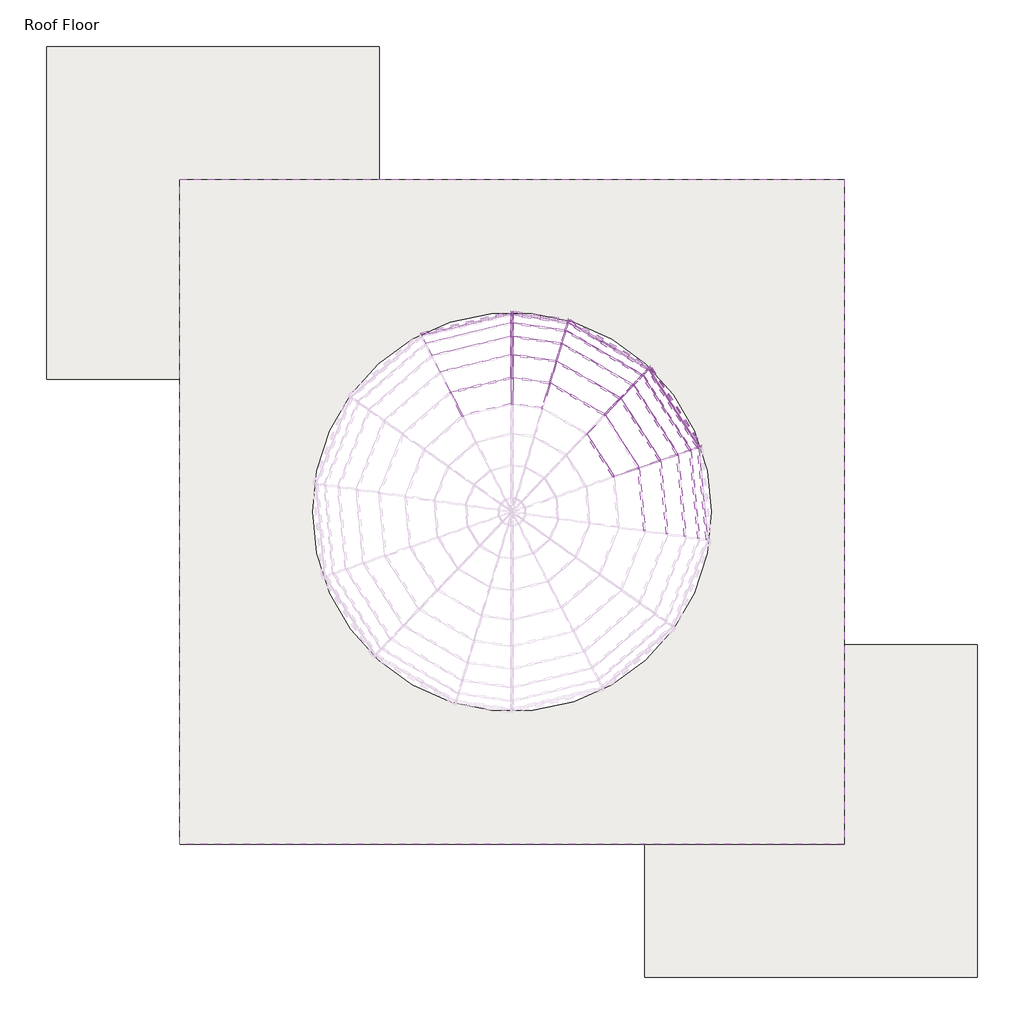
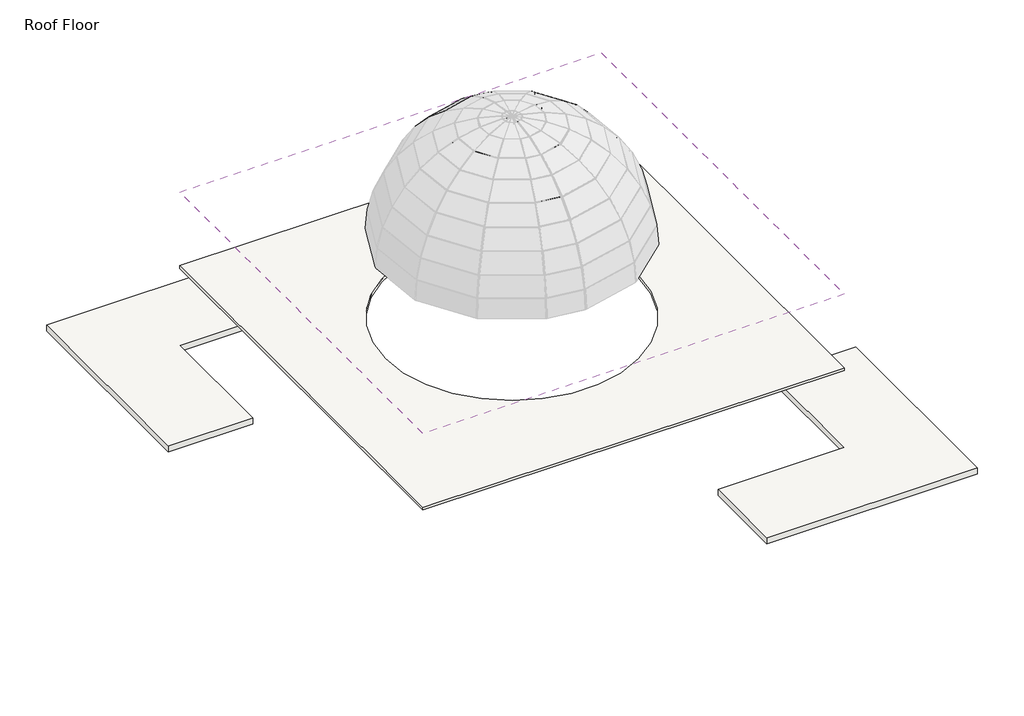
# One storey, part 5 of 5: 54 members, 23 plates, 2 roofs, 2 slabs.
"""IFC4 building model written with IfcOpenShell, lengths in millimetres."""

from ifc_helpers import new_model, si_unit, point, frame, frame_2d, origin, place, context, project, spatial, polyline, circle_curve, trimmed, segment, composite_curve, outline, extrude, transform, mapped, element, save
from components import member_a4b9d852, member_4cbb40d8, member_e5884c93, member_19e455aa, member_1644e863, member_7f7bd10d, member_ecfbb555, member_1f5db4fb, member_3542fcca, member_8c0c7285, member_e03b8e9c, member_dc775c2f, member_acb6b9ec, member_e077157f, member_c4213f63, member_6952dcc5, member_c3dcfc8e, member_16816f3b, member_335e9b28, member_95e271e4, member_56577a18, member_8ccf5568, member_51c93bb0, member_3c5b05b3, member_fd7ad58a, member_76afc974, member_c7f1f8f4, member_0ec1a058, system_panel_glazed_95229d4f, system_panel_glazed_dfb81899, system_panel_glazed_b60c8f88, system_panel_glazed_a08cf5d3, system_panel_glazed_10998a2e, system_panel_glazed_e9365c18, system_panel_glazed_9944c64d, system_panel_glazed_044c179b, system_panel_glazed_231bbcbc, system_panel_glazed_73e16893, system_panel_glazed_0d06b648, system_panel_glazed_5fe24ba9, system_panel_glazed_dbff668c, system_panel_glazed_0487fba4, system_panel_glazed_b552b528, system_panel_glazed_ecd34a34, system_panel_glazed_bd6fc11e, system_panel_glazed_7ee87b59

model = new_model("IFC4")

# Units and contexts
model_context = context("Model", 3, world=origin())
ifc_project = project(units=[si_unit("LENGTHUNIT", "METRE", prefix="MILLI")], contexts=[model_context])

# Site, building, storey
site = spatial("IfcSite", under=ifc_project)
building = spatial("IfcBuilding", under=site)
storey = spatial("IfcBuildingStorey", under=building, Name="Roof Floor", Elevation=15240.0)

# Members
placement = place(None, origin())
member_shape = member_a4b9d852(model_context)
element("IfcMember", 1, ObjectType="Rectangular Mullion : 1\" Square", at=placement, inside=storey, context=model_context, shape_type="MappedRepresentation", body=[
    mapped(member_shape, transform((-3865.6555486, 2046.7790077, 21675.0614442), x_axis=(0.17684502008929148, -0.7291506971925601, 0.6611089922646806), y_axis=(-0.1558248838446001, 0.6424824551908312, 0.7502898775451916), z_axis=(-0.9718253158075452, -0.23570226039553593, 0.0))),
])
member_2_shape = member_4cbb40d8(model_context)
element("IfcMember", 2, ObjectType="Rectangular Mullion : 1\" Square", at=placement, inside=storey, context=model_context, shape_type="MappedRepresentation", body=[
    mapped(member_2_shape, transform((-2445.9654175, 2901.277492, 21117.9670279), x_axis=(-0.08886370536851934, -0.6165291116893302, 0.7823011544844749), y_axis=(0.11160400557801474, 0.774299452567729, 0.6229003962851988), z_axis=(-0.9897715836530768, 0.14266117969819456, 0.0))),
])
member_3_shape = member_e5884c93(model_context)
element("IfcMember", 3, ObjectType="Rectangular Mullion : 1\" Square", at=placement, inside=storey, context=model_context, shape_type="MappedRepresentation", body=[
    mapped(member_3_shape, transform((924.03532, 474.2517773, 21117.9670279), x_axis=(-0.6270371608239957, -0.05961648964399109, 0.7767047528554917), y_axis=(0.7732178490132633, 0.0735148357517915, 0.6298648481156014), z_axis=(-0.09464965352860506, 0.9955106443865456, 0.0))),
])
element("IfcMember", 4, ObjectType="Rectangular Mullion : 1\" Square", at=placement, inside=storey, context=model_context, shape_type="MappedRepresentation", body=[
    mapped(member_3_shape, transform((15.2659687, 1900.7280925, 21117.9670279), x_axis=(-0.5300546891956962, -0.34025248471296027, 0.7767047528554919), y_axis=(0.6536259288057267, 0.41957528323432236, 0.6298648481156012), z_axis=(-0.5401991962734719, 0.8415371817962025, 0.0))),
])
element("IfcMember", 5, ObjectType="Rectangular Mullion : 1\" Square", at=placement, inside=storey, context=model_context, shape_type="MappedRepresentation", body=[
    mapped(member_3_shape, transform((-1446.0304014, 2752.3790366, 21117.9670279), x_axis=(-0.3152822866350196, -0.5452768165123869, 0.7767047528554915), y_axis=(0.38878380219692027, 0.6723967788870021, 0.6298648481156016), z_axis=(-0.8657044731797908, 0.5005554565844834, 0.0))),
])
member_4_shape = member_19e455aa(model_context)
element("IfcMember", 6, ObjectType="Rectangular Mullion : 1\" Square", at=placement, inside=storey, context=model_context, shape_type="MappedRepresentation", body=[
    mapped(member_4_shape, transform((-2445.9654175, 3321.4246649, 20482.2624164), x_axis=(-0.0690107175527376, -0.47879070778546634, 0.8752125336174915), y_axis=(0.1248588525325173, 0.8662604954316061, 0.48373858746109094), z_axis=(-0.9897715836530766, 0.14266117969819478, 0.0))),
])
member_5_shape = member_1644e863(model_context)
element("IfcMember", 7, ObjectType="Rectangular Mullion : 1\" Square", at=placement, inside=storey, context=model_context, shape_type="MappedRepresentation", body=[
    mapped(member_5_shape, transform((1321.1388108, 611.4832041, 20482.2624164), x_axis=(-0.4883347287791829, -0.04642914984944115, 0.8714204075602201), y_axis=(0.867508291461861, 0.08247963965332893, 0.4905369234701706), z_axis=(-0.09464965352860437, 0.9955106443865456, 0.0))),
])
element("IfcMember", 8, ObjectType="Rectangular Mullion : 1\" Square", at=placement, inside=storey, context=model_context, shape_type="MappedRepresentation", body=[
    mapped(member_5_shape, transform((305.3779974, 2204.6337649, 20482.2624164), x_axis=(-0.41280506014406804, -0.2649876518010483, 0.8714204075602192), y_axis=(0.7333326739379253, 0.47074060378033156, 0.4905369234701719), z_axis=(-0.5401991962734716, 0.8415371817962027, 0.0))),
])
element("IfcMember", 9, ObjectType="Rectangular Mullion : 1\" Square", at=placement, inside=storey, context=model_context, shape_type="MappedRepresentation", body=[
    mapped(member_5_shape, transform((-1327.3791745, 3155.4243607, 20482.2624164), x_axis=(-0.2455409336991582, -0.42466000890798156, 0.8714204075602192), y_axis=(0.43619423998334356, 0.7543925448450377, 0.49053692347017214), z_axis=(-0.8657044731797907, 0.5005554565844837, 0.0))),
])
member_6_shape = member_7f7bd10d(model_context)
element("IfcMember", 10, ObjectType="Rectangular Mullion : 1\" Square", at=placement, inside=storey, context=model_context, shape_type="MappedRepresentation", body=[
    mapped(member_6_shape, transform((-3877.9977301, 2043.785589, 21675.0614442), x_axis=(-0.8888888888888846, -0.4581228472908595, 0.0), y_axis=(-0.27836636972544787, 0.5401100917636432, 0.794224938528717), z_axis=(-0.3638525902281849, 0.7059777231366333, -0.6076238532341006))),
])
element("IfcMember", 11, ObjectType="Rectangular Mullion : 1\" Square", at=placement, inside=storey, context=model_context, shape_type="MappedRepresentation", body=[
    mapped(member_6_shape, transform((1790.1180783, 786.6119258, 19047.3495572), x_axis=(-0.32662703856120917, 0.9451533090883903, 0.0), y_axis=(0.915702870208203, 0.3164495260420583, 0.24768518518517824), z_axis=(0.2341004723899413, 0.08090067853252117, -0.9688405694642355))),
])
element("IfcMember", 12, ObjectType="Rectangular Mullion : 1\" Square", at=placement, inside=storey, context=model_context, shape_type="MappedRepresentation", body=[
    mapped(member_6_shape, transform((1611.7335184, 724.9656087, 19785.6060711), x_axis=(-0.32662703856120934, 0.9451533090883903, 0.0), y_axis=(0.8641037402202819, 0.2986178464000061, 0.40515689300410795), z_axis=(0.382935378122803, 0.13233519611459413, -0.9142471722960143))),
])
element("IfcMember", 13, ObjectType="Rectangular Mullion : 1\" Square", at=placement, inside=storey, context=model_context, shape_type="MappedRepresentation", body=[
    mapped(member_6_shape, transform((1319.9367602, 624.1261893, 20482.2624164), x_axis=(-0.3266270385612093, 0.9451533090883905, 0.0), y_axis=(0.7885017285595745, 0.27249122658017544, 0.5513742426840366), z_axis=(0.5211331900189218, 0.1800937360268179, -0.8342580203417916))),
])
element("IfcMember", 14, ObjectType="Rectangular Mullion : 1\" Square", at=placement, inside=storey, context=model_context, shape_type="MappedRepresentation", body=[
    mapped(member_6_shape, transform((922.8332694, 486.8947624, 21117.9670279), x_axis=(-0.3266270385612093, 0.9451533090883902, 0.0), y_axis=(0.6909968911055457, 0.23879540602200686, 0.6822756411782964), z_axis=(0.6448550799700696, 0.22284967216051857, -0.7310950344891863))),
])
element("IfcMember", 15, ObjectType="Rectangular Mullion : 1\" Square", at=placement, inside=storey, context=model_context, shape_type="MappedRepresentation", body=[
    mapped(member_6_shape, transform((431.4536985, 317.0833123, 21675.0614442), x_axis=(-0.3266270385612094, 0.9451533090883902, 0.0), y_axis=(0.574297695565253, 0.19846637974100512, 0.7942249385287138), z_axis=(0.7506643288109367, 0.25941533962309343, -0.6076238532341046))),
])
element("IfcMember", 16, ObjectType="Rectangular Mullion : 1\" Square", at=placement, inside=storey, context=model_context, shape_type="MappedRepresentation", body=[
    mapped(member_6_shape, transform((642.0179888, 2575.1538571, 19047.3495572), x_axis=(-0.7233314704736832, 0.6905009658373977, 0.0), y_axis=(0.6689853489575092, 0.7007928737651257, 0.24768518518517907), z_axis=(0.17102685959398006, 0.17915848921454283, -0.9688405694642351))),
])
element("IfcMember", 17, ObjectType="Rectangular Mullion : 1\" Square", at=placement, inside=storey, context=model_context, shape_type="MappedRepresentation", body=[
    mapped(member_6_shape, transform((511.6955218, 2438.6350883, 19785.6060711), x_axis=(-0.7233314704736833, 0.6905009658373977, 0.0), y_axis=(0.6312885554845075, 0.6613037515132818, 0.4051568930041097), z_axis=(0.2797612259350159, 0.2930627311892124, -0.9142471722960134))),
])
element("IfcMember", 18, ObjectType="Rectangular Mullion : 1\" Square", at=placement, inside=storey, context=model_context, shape_type="MappedRepresentation", body=[
    mapped(member_6_shape, transform((298.5174676, 2215.3212871, 20482.2624164), x_axis=(-0.7233314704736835, 0.6905009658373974, 0.0), y_axis=(0.5760559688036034, 0.603445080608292, 0.5513742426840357), z_axis=(0.380724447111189, 0.3988263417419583, -0.8342580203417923))),
])
element("IfcMember", 19, ObjectType="Rectangular Mullion : 1\" Square", at=placement, inside=storey, context=model_context, shape_type="MappedRepresentation", body=[
    mapped(member_6_shape, transform((8.4054389, 1911.4156147, 21117.9670279), x_axis=(-0.7233314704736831, 0.6905009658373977, 0.0), y_axis=(0.5048218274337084, 0.5288240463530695, 0.6822756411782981), z_axis=(0.4711119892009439, 0.49351144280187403, -0.7310950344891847))),
])
element("IfcMember", 20, ObjectType="Rectangular Mullion : 1\" Square", at=placement, inside=storey, context=model_context, shape_type="MappedRepresentation", body=[
    mapped(member_6_shape, transform((-1197.8873462, 3638.9980251, 19047.3495572), x_axis=(-0.959295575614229, 0.2824039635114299, 0.0), y_axis=(0.273604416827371, 0.9294044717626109, 0.24768518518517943), z_axis=(0.06994727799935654, 0.2376033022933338, -0.9688405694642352))),
])
element("IfcMember", 21, ObjectType="Rectangular Mullion : 1\" Square", at=placement, inside=storey, context=model_context, shape_type="MappedRepresentation", body=[
    mapped(member_6_shape, transform((-1251.187172, 3457.9443087, 19785.6060711), x_axis=(-0.959295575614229, 0.2824039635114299, 0.0), y_axis=(0.2581870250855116, 0.8770332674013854, 0.4051568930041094), z_axis=(0.11441791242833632, 0.3886652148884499, -0.9142471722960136))),
])
element("IfcMember", 22, ObjectType="Rectangular Mullion : 1\" Square", at=placement, inside=storey, context=model_context, shape_type="MappedRepresentation", body=[
    mapped(member_6_shape, transform((-1338.3736213, 3161.781415, 20482.2624164), x_axis=(-0.9592955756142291, 0.2824039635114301, 0.0), y_axis=(0.23559777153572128, 0.8003000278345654, 0.5513742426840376), z_axis=(0.1557102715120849, 0.5289308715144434, -0.834258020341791))),
])
element("IfcMember", 23, ObjectType="Rectangular Mullion : 1\" Square", at=placement, inside=storey, context=model_context, shape_type="MappedRepresentation", body=[
    mapped(member_6_shape, transform((-1457.0248482, 2758.7360909, 21117.9670279), x_axis=(-0.9592955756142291, 0.2824039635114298, 0.0), y_axis=(0.2064641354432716, 0.7013362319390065, 0.6822756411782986), z_axis=(0.19267734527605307, 0.6545040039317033, -0.7310950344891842))),
])
element("IfcMember", 24, ObjectType="Rectangular Mullion : 1\" Square", at=placement, inside=storey, context=model_context, shape_type="MappedRepresentation", body=[
    mapped(member_6_shape, transform((-1603.8449853, 2260.0040399, 21675.0614442), x_axis=(-0.959295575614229, 0.28240396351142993, 0.0), y_axis=(0.17159538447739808, 0.582890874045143, 0.7942249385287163), z_axis=(0.22429227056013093, 0.7618964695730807, -0.6076238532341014))),
])
member_7_shape = member_ecfbb555(model_context)
element("IfcMember", 25, ObjectType="Rectangular Mullion : 1\" Square", at=placement, inside=storey, context=model_context, shape_type="MappedRepresentation", body=[
    mapped(member_7_shape, transform((1612.935569, 712.3226236, 19785.6060711), x_axis=(-0.3344897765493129, -0.03180211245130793, 0.9418626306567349), y_axis=(0.9376342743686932, 0.08914697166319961, 0.3359981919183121), z_axis=(-0.0946496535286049, 0.9955106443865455, 0.0))),
])
element("IfcMember", 26, ObjectType="Rectangular Mullion : 1\" Square", at=placement, inside=storey, context=model_context, shape_type="MappedRepresentation", body=[
    mapped(member_7_shape, transform((518.5560516, 2427.9475661, 19785.6060711), x_axis=(-0.28275497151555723, -0.18150595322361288, 0.9418626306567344), y_axis=(0.7926124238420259, 0.5087934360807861, 0.3359981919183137), z_axis=(-0.5401991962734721, 0.8415371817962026, 0.0))),
])
element("IfcMember", 27, ObjectType="Rectangular Mullion : 1\" Square", at=placement, inside=storey, context=model_context, shape_type="MappedRepresentation", body=[
    mapped(member_7_shape, transform((-1240.1927252, 3451.5872544, 19785.6060711), x_axis=(-0.1681857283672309, -0.2908751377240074, 0.9418626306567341), y_axis=(0.47145447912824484, 0.8153746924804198, 0.33599819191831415), z_axis=(-0.8657044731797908, 0.5005554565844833, 0.0))),
])
member_8_shape = member_1f5db4fb(model_context)
element("IfcMember", 28, ObjectType="Rectangular Mullion : 1\" Square", at=placement, inside=storey, context=model_context, shape_type="MappedRepresentation", body=[
    mapped(member_8_shape, transform((-2445.9654175, 3818.8903285, 19047.3495572), x_axis=(-0.023932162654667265, -0.16603938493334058, 0.9858286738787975), y_axis=(0.1406394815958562, 0.9757452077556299, 0.16775525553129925), z_axis=(-0.9897715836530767, 0.1426611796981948, 0.0))),
])
member_9_shape = member_3542fcca(model_context)
element("IfcMember", 29, ObjectType="Rectangular Mullion : 1\" Square", at=placement, inside=storey, context=model_context, shape_type="MappedRepresentation", body=[
    mapped(member_9_shape, transform((1791.3201289, 773.9689406, 19047.3495572), x_axis=(-0.1699969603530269, -0.01616271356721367, 0.9853120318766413), y_axis=(0.9808886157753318, 0.09325944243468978, 0.1707635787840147), z_axis=(-0.09464965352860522, 0.9955106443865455, 0.0))),
])
element("IfcMember", 30, ObjectType="Rectangular Mullion : 1\" Square", at=placement, inside=storey, context=model_context, shape_type="MappedRepresentation", body=[
    mapped(member_9_shape, transform((648.8785186, 2564.4663348, 19047.3495572), x_axis=(-0.14370390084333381, -0.09224634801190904, 0.9853120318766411), y_axis=(0.8291767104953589, 0.532264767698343, 0.17076357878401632), z_axis=(-0.540199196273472, 0.8415371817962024, 0.0))),
])
element("IfcMember", 31, ObjectType="Rectangular Mullion : 1\" Square", at=placement, inside=storey, context=model_context, shape_type="MappedRepresentation", body=[
    mapped(member_9_shape, transform((-1186.8928994, 3632.6409708, 19047.3495572), x_axis=(-0.08547664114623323, -0.1478307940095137, 0.985312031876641), y_axis=(0.49320331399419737, 0.8529890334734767, 0.17076357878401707), z_axis=(-0.8657044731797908, 0.5005554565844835, 0.0))),
])
member_10_shape = member_8c0c7285(model_context)
element("IfcMember", 32, ObjectType="Rectangular Mullion : 1\" Square", at=placement, inside=storey, context=model_context, shape_type="MappedRepresentation", body=[
    mapped(member_10_shape, transform((-2445.9654175, 3630.1542173, 19785.6060711), x_axis=(-0.047160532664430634, -0.3271959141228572, 0.9437789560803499), y_axis=(0.13464061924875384, 0.9341255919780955, 0.3305771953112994), z_axis=(-0.9897715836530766, 0.14266117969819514, 0.0))),
])
member_11_shape = member_e03b8e9c(model_context)
element("IfcMember", 33, ObjectType="Rectangular Mullion : 1\" Square", at=placement, inside=storey, context=model_context, shape_type="MappedRepresentation", body=[
    mapped(member_11_shape, transform((-2471.1056157, 3822.5139224, 19047.3495572), x_axis=(0.972012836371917, 0.23411060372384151, 0.019577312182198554), y_axis=(-0.2349277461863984, 0.9686319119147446, 0.08100106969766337), z_axis=(0.0, -0.08333333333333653, 0.9965217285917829))),
])
member_12_shape = member_dc775c2f(model_context)
element("IfcMember", 34, ObjectType="Rectangular Mullion : 1\" Square", at=placement, inside=storey, context=model_context, shape_type="MappedRepresentation", body=[
    mapped(member_12_shape, transform((-2471.1056157, 3633.7778113, 19785.6060711), x_axis=(0.9734856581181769, 0.22162039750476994, 0.056657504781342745), y_axis=(-0.22874805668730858, 0.9431523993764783, 0.24111797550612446), z_axis=(0.0, -0.24768518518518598, 0.9688405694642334))),
])
member_13_shape = member_acb6b9ec(model_context)
element("IfcMember", 35, ObjectType="Rectangular Mullion : 1\" Square", at=placement, inside=storey, context=model_context, shape_type="MappedRepresentation", body=[
    mapped(member_13_shape, transform((-2471.1056157, 3325.0482588, 20482.2624164), x_axis=(0.9762871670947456, 0.19791575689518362, 0.08770815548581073), y_axis=(-0.21647948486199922, 0.8925677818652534, 0.39554947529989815), z_axis=(0.0, -0.40515689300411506, 0.914247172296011))),
])
member_14_shape = member_e077157f(model_context)
element("IfcMember", 36, ObjectType="Rectangular Mullion : 1\" Square", at=placement, inside=storey, context=model_context, shape_type="MappedRepresentation", body=[
    mapped(member_14_shape, transform((-2471.1056157, 2904.9010859, 21117.9670279), x_axis=(0.9801376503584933, 0.16544871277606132, 0.10934765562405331), y_axis=(-0.1983183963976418, 0.8176876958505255, 0.5404226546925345), z_axis=(0.0, -0.5513742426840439, 0.8342580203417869))),
])
member_15_shape = member_c4213f63(model_context)
element("IfcMember", 37, ObjectType="Rectangular Mullion : 1\" Square", at=placement, inside=storey, context=model_context, shape_type="MappedRepresentation", body=[
    mapped(member_15_shape, transform((-2471.1056157, 2385.0070473, 21675.0614442), x_axis=(0.9846406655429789, 0.12764416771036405, 0.11912063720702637), y_axis=(-0.17459312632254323, 0.7198659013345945, 0.6717963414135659), z_axis=(0.0, -0.6822756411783, 0.7310950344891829))),
])
member_16_shape = member_6952dcc5(model_context)
element("IfcMember", 38, ObjectType="Rectangular Mullion : 1\" Square", at=placement, inside=storey, context=model_context, shape_type="MappedRepresentation", body=[
    mapped(member_16_shape, transform((1843.2747837, 818.0402649, 18288.0), x_axis=(0.06816541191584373, 0.04375671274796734, -0.9967140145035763), y_axis=(0.8387719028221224, 0.538424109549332, 0.08100106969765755), z_axis=(0.5401991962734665, -0.8415371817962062, 0.0))),
])
element("IfcMember", 39, ObjectType="Rectangular Mullion : 1\" Square", at=placement, inside=storey, context=model_context, shape_type="MappedRepresentation", body=[
    mapped(member_16_shape, transform((674.8703533, 2627.4424597, 18288.0), x_axis=(0.04054552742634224, 0.07012298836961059, -0.9967140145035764), y_axis=(0.4989106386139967, 0.8628597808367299, 0.08100106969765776), z_axis=(0.8657044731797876, -0.500555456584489, 0.0))),
])
member_17_shape = member_c3dcfc8e(model_context)
element("IfcMember", 40, ObjectType="Rectangular Mullion : 1\" Square", at=placement, inside=storey, context=model_context, shape_type="MappedRepresentation", body=[
    mapped(member_17_shape, transform((-1192.5247936, 3701.7250911, 18288.0), x_axis=(0.011767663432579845, 0.08164308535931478, -0.996592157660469), y_axis=(0.14217501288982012, 0.986398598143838, 0.08248679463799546), z_axis=(0.9897715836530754, -0.14266117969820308, 0.0))),
])
member_18_shape = member_16816f3b(model_context)
element("IfcMember", 41, ObjectType="Rectangular Mullion : 1\" Square", at=placement, inside=storey, context=model_context, shape_type="MappedRepresentation", body=[
    mapped(member_18_shape, transform((-761.6121395, 1086.9125989, 22138.0708204), x_axis=(-0.7144526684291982, -0.4586211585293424, 0.5284165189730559), y_axis=(0.44468214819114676, 0.28545017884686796, 0.8489852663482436), z_axis=(-0.540199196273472, 0.8415371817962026, 0.0))),
])
member_19_shape = member_335e9b28(model_context)
element("IfcMember", 42, ObjectType="Rectangular Mullion : 1\" Square", at=placement, inside=storey, context=model_context, shape_type="MappedRepresentation", body=[
    mapped(member_19_shape, transform((-2445.9654175, 2381.3834534, 21675.0614442), x_axis=(-0.10617586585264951, -0.7366394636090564, 0.6678989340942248), y_axis=(0.0952832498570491, 0.6610673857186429, 0.744251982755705), z_axis=(-0.9897715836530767, 0.14266117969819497, 0.0))),
])
member_20_shape = member_95e271e4(model_context)
element("IfcMember", 43, ObjectType="Rectangular Mullion : 1\" Square", at=placement, inside=storey, context=model_context, shape_type="MappedRepresentation", body=[
    mapped(member_20_shape, transform((432.6557491, 304.4403271, 21675.0614442), x_axis=(-0.7469215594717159, -0.07101467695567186, 0.6611089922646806), y_axis=(0.658141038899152, 0.06257373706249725, 0.7502898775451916), z_axis=(-0.09464965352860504, 0.9955106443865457, 0.0))),
])
element("IfcMember", 44, ObjectType="Rectangular Mullion : 1\" Square", at=placement, inside=storey, context=model_context, shape_type="MappedRepresentation", body=[
    mapped(member_20_shape, transform((-1592.8505385, 2253.6469856, 21675.0614442), x_axis=(-0.3755616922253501, -0.6495293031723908, 0.6611089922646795), y_axis=(0.3309217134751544, 0.5723250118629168, 0.7502898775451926), z_axis=(-0.8657044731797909, 0.5005554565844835, 0.0))),
])
member_21_shape = member_56577a18(model_context)
element("IfcMember", 45, ObjectType="Rectangular Mullion : 1\" Square", at=placement, inside=storey, context=model_context, shape_type="MappedRepresentation", body=[
    mapped(member_21_shape, transform((-2495.7899787, 3880.027085, 18288.0), x_axis=(-0.01909213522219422, 0.07871889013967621, -0.9967140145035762), y_axis=(-0.2349277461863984, 0.968631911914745, 0.08100106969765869), z_axis=(0.971825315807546, 0.2357022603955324, 0.0))),
])
member_22_shape = member_8ccf5568(model_context)
element("IfcMember", 46, ObjectType="Rectangular Mullion : 1\" Square", at=placement, inside=storey, context=model_context, shape_type="MappedRepresentation", body=[
    mapped(member_22_shape, transform((1850.1353135, 807.3527427, 18288.0), x_axis=(-0.3266270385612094, 0.9451533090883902, 0.0), y_axis=(0.941865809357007, 0.3254909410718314, 0.08333333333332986), z_axis=(0.0787627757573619, 0.02721891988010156, -0.9965217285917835))),
])
element("IfcMember", 47, ObjectType="Rectangular Mullion : 1\" Square", at=placement, inside=storey, context=model_context, shape_type="MappedRepresentation", body=[
    mapped(member_22_shape, transform((685.8648001, 2621.0854054, 18288.0), x_axis=(-0.7233314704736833, 0.6905009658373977, 0.0), y_axis=(0.6880992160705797, 0.7208155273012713, 0.08333333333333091), z_axis=(0.05754174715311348, 0.0602776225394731, -0.9965217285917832))),
])
element("IfcMember", 48, ObjectType="Rectangular Mullion : 1\" Square", at=placement, inside=storey, context=model_context, shape_type="MappedRepresentation", body=[
    mapped(member_22_shape, transform((-1179.9546945, 3699.9132941, 18288.0), x_axis=(-0.959295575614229, 0.2824039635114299, 0.0), y_axis=(0.28142168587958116, 0.9559588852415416, 0.08333333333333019), z_axis=(0.023533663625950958, 0.07994129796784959, -0.9965217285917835))),
])
member_23_shape = member_51c93bb0(model_context)
element("IfcMember", 49, ObjectType="Rectangular Mullion : 1\" Square", at=placement, inside=storey, context=model_context, shape_type="MappedRepresentation", body=[
    mapped(member_23_shape, transform((-2471.1056157, 3886.0139224, 18288.0), x_axis=(-0.9898415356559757, 0.1416804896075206, 0.011847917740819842), y_axis=(0.14217501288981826, 0.9863985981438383, 0.08248679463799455), z_axis=(0.0, 0.08333333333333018, -0.9965217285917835))),
])
member_24_shape = member_3c5b05b3(model_context)
element("IfcMember", 50, ObjectType="Rectangular Mullion : 1\" Square", at=placement, inside=storey, context=model_context, shape_type="MappedRepresentation", body=[
    mapped(member_24_shape, transform((-2471.1056157, 3822.5139224, 19047.3495572), x_axis=(-0.9903900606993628, 0.1339928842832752, 0.034255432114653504), y_axis=(0.13830230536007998, 0.9595300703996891, 0.2453049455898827), z_axis=(0.0, 0.24768518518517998, -0.9688405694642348))),
])
member_25_shape = member_fd7ad58a(model_context)
element("IfcMember", 51, ObjectType="Rectangular Mullion : 1\" Square", at=placement, inside=storey, context=model_context, shape_type="MappedRepresentation", body=[
    mapped(member_25_shape, transform((-2471.1056157, 3633.7778113, 19785.6060711), x_axis=(-0.9914290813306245, 0.11944273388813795, 0.052932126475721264), y_axis=(0.13064599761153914, 0.9064112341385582, 0.40168432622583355), z_axis=(0.0, 0.4051568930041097, -0.9142471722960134))),
])
member_26_shape = member_76afc974(model_context)
element("IfcMember", 52, ObjectType="Rectangular Mullion : 1\" Square", at=placement, inside=storey, context=model_context, shape_type="MappedRepresentation", body=[
    mapped(member_26_shape, transform((-2471.1056157, 3325.0482588, 20482.2624164), x_axis=(-0.9928478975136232, 0.0995988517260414, 0.0658264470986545), y_axis=(0.11938614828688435, 0.8282913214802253, 0.547430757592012), z_axis=(0.0, 0.5513742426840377, -0.8342580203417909))),
])
member_27_shape = member_c7f1f8f4(model_context)
element("IfcMember", 53, ObjectType="Rectangular Mullion : 1\" Square", at=placement, inside=storey, context=model_context, shape_type="MappedRepresentation", body=[
    mapped(member_27_shape, transform((-2471.1056157, 2904.9010859, 21117.9670279), x_axis=(-0.9944936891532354, 0.07661618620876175, 0.07150008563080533), y_axis=(0.10479648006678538, 0.7270693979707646, 0.6785188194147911), z_axis=(0.0, 0.6822756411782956, -0.7310950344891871))),
])
member_28_shape = member_0ec1a058(model_context)
element("IfcMember", 54, ObjectType="Rectangular Mullion : 1\" Square", at=placement, inside=storey, context=model_context, shape_type="MappedRepresentation", body=[
    mapped(member_28_shape, transform((-2471.1056157, 2385.0070473, 21675.0614442), x_axis=(-0.9961867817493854, 0.0530128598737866, 0.06929309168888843), y_axis=(0.0872461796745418, 0.6053068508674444, 0.7911963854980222), z_axis=(0.0, 0.794224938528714, -0.6076238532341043))),
])

# Plates
system_panel_glazed_shape = system_panel_glazed_95229d4f(model_context)
element("IfcPlate", 55, ObjectType="System Panel : Glazed", at=placement, inside=storey, context=model_context, shape_type="MappedRepresentation", body=[
    mapped(system_panel_glazed_shape, transform((-3524.0617859, 3628.5174645, 18313.316536), x_axis=(-0.971825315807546, -0.23570226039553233, 0.0), y_axis=(0.2349277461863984, -0.968631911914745, -0.0810010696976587), z_axis=(0.01909213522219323, -0.07871889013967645, 0.9967140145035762))),
])
system_panel_glazed_2_shape = system_panel_glazed_dfb81899(model_context)
element("IfcPlate", 56, ObjectType="System Panel : Glazed", at=placement, inside=storey, context=model_context, shape_type="MappedRepresentation", body=[
    mapped(system_panel_glazed_2_shape, transform((1266.2686553, 1713.1076536, 18313.316536), x_axis=(-0.5401991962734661, 0.8415371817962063, 0.0), y_axis=(-0.8387719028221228, -0.5384241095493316, -0.08100106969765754), z_axis=(-0.06816541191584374, -0.0437567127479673, 0.9967140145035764))),
])
element("IfcPlate", 57, ObjectType="System Panel : Glazed", at=placement, inside=storey, context=model_context, shape_type="MappedRepresentation", body=[
    mapped(system_panel_glazed_2_shape, transform((-248.0748036, 3158.7182259, 18313.316536), x_axis=(-0.8657044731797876, 0.500555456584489, 0.0), y_axis=(-0.4989106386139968, -0.8628597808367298, -0.08100106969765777), z_axis=(-0.04054552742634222, -0.0701229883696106, 0.9967140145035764))),
])
system_panel_glazed_3_shape = system_panel_glazed_b60c8f88(model_context)
element("IfcPlate", 58, ObjectType="System Panel : Glazed", at=placement, inside=storey, context=model_context, shape_type="MappedRepresentation", body=[
    mapped(system_panel_glazed_3_shape, transform((-1819.54356, 3789.9839114, 18313.3134408), x_axis=(-0.9897715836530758, 0.14266117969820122, 0.0), y_axis=(-0.14217501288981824, -0.9863985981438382, -0.08248679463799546), z_axis=(-0.011767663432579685, -0.08164308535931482, 0.9965921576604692))),
])
system_panel_glazed_4_shape = system_panel_glazed_a08cf5d3(model_context)
element("IfcPlate", 59, ObjectType="System Panel : Glazed", at=placement, inside=storey, context=model_context, shape_type="MappedRepresentation", body=[
    mapped(system_panel_glazed_4_shape, transform((-3509.2889111, 3567.5665119, 19059.674854), x_axis=(-0.9718253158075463, -0.23570226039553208, 0.0), y_axis=(0.22874805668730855, -0.9431523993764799, -0.24111797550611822), z_axis=(0.05683205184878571, -0.2343245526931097, 0.9704958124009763))),
])
system_panel_glazed_5_shape = system_panel_glazed_10998a2e(model_context)
element("IfcPlate", 60, ObjectType="System Panel : Glazed", at=placement, inside=storey, context=model_context, shape_type="MappedRepresentation", body=[
    mapped(system_panel_glazed_5_shape, transform((1213.4910798, 1679.2286944, 19059.674854), x_axis=(-0.5401991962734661, 0.8415371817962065, 0.0), y_axis=(-0.8167083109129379, -0.5242610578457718, -0.24111797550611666), z_axis=(-0.2029097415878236, -0.13025173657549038, 0.9704958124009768))),
])
element("IfcPlate", 61, ObjectType="System Panel : Glazed", at=placement, inside=storey, context=model_context, shape_type="MappedRepresentation", body=[
    mapped(system_panel_glazed_5_shape, transform((-279.4674788, 3104.4249823, 19059.674854), x_axis=(-0.8657044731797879, 0.5005554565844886, 0.0), y_axis=(-0.4857869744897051, -0.8401625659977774, -0.24111797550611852), z_axis=(-0.12069291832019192, -0.2087369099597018, 0.9704958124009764))),
])
system_panel_glazed_6_shape = system_panel_glazed_e9365c18(model_context)
element("IfcPlate", 62, ObjectType="System Panel : Glazed", at=placement, inside=storey, context=model_context, shape_type="MappedRepresentation", body=[
    mapped(system_panel_glazed_6_shape, transform((-1828.6519468, 3726.7660017, 19059.661521), x_axis=(-0.9897715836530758, 0.14266117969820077, 0.0), y_axis=(-0.13830230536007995, -0.9595300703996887, -0.2453049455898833), z_axis=(-0.03499549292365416, -0.2427958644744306, 0.9694459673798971))),
])
system_panel_glazed_7_shape = system_panel_glazed_9944c64d(model_context)
element("IfcPlate", 63, ObjectType="System Panel : Glazed", at=placement, inside=storey, context=model_context, shape_type="MappedRepresentation", body=[
    mapped(system_panel_glazed_7_shape, transform((-3465.6122602, 3387.4054041, 19797.2703184), x_axis=(-0.9718253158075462, -0.23570226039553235, 0.0), y_axis=(0.21647948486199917, -0.8925677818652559, -0.3955494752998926), z_axis=(0.09323190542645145, -0.3844049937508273, 0.9184446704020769))),
])
system_panel_glazed_8_shape = system_panel_glazed_044c179b(model_context)
element("IfcPlate", 64, ObjectType="System Panel : Glazed", at=placement, inside=storey, context=model_context, shape_type="MappedRepresentation", body=[
    mapped(system_panel_glazed_8_shape, transform((1057.4870763, 1579.0866695, 19797.2703184), x_axis=(-0.5401991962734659, 0.8415371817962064, 0.0), y_axis=(-0.7729053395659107, -0.49614307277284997, -0.39554947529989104), z_axis=(-0.33286959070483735, -0.21367550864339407, 0.9184446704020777))),
])
element("IfcPlate", 65, ObjectType="System Panel : Glazed", at=placement, inside=storey, context=model_context, shape_type="MappedRepresentation", body=[
    mapped(system_panel_glazed_8_shape, transform((-372.2603546, 2943.9408508, 19797.2703184), x_axis=(-0.8657044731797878, 0.5005554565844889, 0.0), y_axis=(-0.45973249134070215, -0.7951016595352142, -0.39554947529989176), z_axis=(-0.19799444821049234, -0.3424289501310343, 0.9184446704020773))),
])
system_panel_glazed_9_shape = system_panel_glazed_231bbcbc(model_context)
element("IfcPlate", 66, ObjectType="System Panel : Glazed", at=placement, inside=storey, context=model_context, shape_type="MappedRepresentation", body=[
    mapped(system_panel_glazed_9_shape, transform((-1855.5785897, 3539.9044327, 19797.2364542), x_axis=(-0.9897715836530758, 0.14266117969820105, 0.0), y_axis=(-0.1306459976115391, -0.9064112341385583, -0.40168432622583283), z_axis=(-0.05730475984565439, -0.3975757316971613, 0.9157781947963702))),
])
system_panel_glazed_10_shape = system_panel_glazed_73e16893(model_context)
element("IfcPlate", 67, ObjectType="System Panel : Glazed", at=placement, inside=storey, context=model_context, shape_type="MappedRepresentation", body=[
    mapped(system_panel_glazed_10_shape, transform((-3394.4850139, 3094.0335122, 20492.9481164), x_axis=(-0.971825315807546, -0.2357022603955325, 0.0), y_axis=(0.19831839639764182, -0.8176876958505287, -0.5404226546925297), z_axis=(0.12737884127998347, -0.5251964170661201, 0.8413936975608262))),
])
system_panel_glazed_11_shape = system_panel_glazed_0d06b648(model_context)
element("IfcPlate", 68, ObjectType="System Panel : Glazed", at=placement, inside=storey, context=model_context, shape_type="MappedRepresentation", body=[
    mapped(system_panel_glazed_11_shape, transform((803.4513348, 1416.0161525, 20492.9481164), x_axis=(-0.540199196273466, 0.8415371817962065, 0.0), y_axis=(-0.7080640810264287, -0.45452019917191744, -0.5404226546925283), z_axis=(-0.45478575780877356, -0.2919358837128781, 0.8413936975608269))),
])
element("IfcPlate", 69, ObjectType="System Panel : Glazed", at=placement, inside=storey, context=model_context, shape_type="MappedRepresentation", body=[
    mapped(system_panel_glazed_11_shape, transform((-523.363573, 2682.6097029, 20492.9481164), x_axis=(-0.8657044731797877, 0.500555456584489, 0.0), y_axis=(-0.4211642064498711, -0.7283982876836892, -0.5404226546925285), z_axis=(-0.2705115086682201, -0.46784630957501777, 0.8413936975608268))),
])
system_panel_glazed_12_shape = system_panel_glazed_5fe24ba9(model_context)
element("IfcPlate", 70, ObjectType="System Panel : Glazed", at=placement, inside=storey, context=model_context, shape_type="MappedRepresentation", body=[
    mapped(system_panel_glazed_12_shape, transform((-1899.4268678, 3235.6248639, 20492.8904239), x_axis=(-0.9897715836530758, 0.1426611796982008, 0.0), y_axis=(-0.11938614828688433, -0.8282913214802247, -0.5474307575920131), z_axis=(-0.07809711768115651, -0.5418314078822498, 0.8368509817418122))),
])
system_panel_glazed_13_shape = system_panel_glazed_dbff668c(model_context)
element("IfcPlate", 71, ObjectType="System Panel : Glazed", at=placement, inside=storey, context=model_context, shape_type="MappedRepresentation", body=[
    mapped(system_panel_glazed_13_shape, transform((-3297.880842, 2695.5994759, 21127.3743739), x_axis=(-0.971825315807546, -0.23570226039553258, 0.0), y_axis=(0.1745931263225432, -0.7198659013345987, -0.6717963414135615), z_axis=(0.15834391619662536, -0.6528686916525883, 0.7407359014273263))),
])
system_panel_glazed_14_shape = system_panel_glazed_0487fba4(model_context)
element("IfcPlate", 72, ObjectType="System Panel : Glazed", at=placement, inside=storey, context=model_context, shape_type="MappedRepresentation", body=[
    mapped(system_panel_glazed_14_shape, transform((458.4395159, 1194.5463098, 21127.3743739), x_axis=(-0.540199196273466, 0.8415371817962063, 0.0), y_axis=(-0.6233568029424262, -0.4001449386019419, -0.6717963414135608), z_axis=(-0.565341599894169, -0.3629038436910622, 0.7407359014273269))),
])
element("IfcPlate", 73, ObjectType="System Panel : Glazed", at=placement, inside=storey, context=model_context, shape_type="MappedRepresentation", body=[
    mapped(system_panel_glazed_14_shape, transform((-728.5803505, 2327.6898237, 21127.3743739), x_axis=(-0.8657044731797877, 0.500555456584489, 0.0), y_axis=(-0.37077939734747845, -0.6412583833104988, -0.6717963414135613), z_axis=(-0.3362713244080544, -0.5815770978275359, 0.7407359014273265))),
])
system_panel_glazed_15_shape = system_panel_glazed_b552b528(model_context)
element("IfcPlate", 74, ObjectType="System Panel : Glazed", at=placement, inside=storey, context=model_context, shape_type="MappedRepresentation", body=[
    mapped(system_panel_glazed_15_shape, transform((-1958.9795354, 2822.3793192, 21127.2962322), x_axis=(-0.9897715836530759, 0.14266117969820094, 0.0), y_axis=(-0.10479648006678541, -0.7270693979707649, -0.678518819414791), z_axis=(-0.09679829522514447, -0.671578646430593, 0.734583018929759))),
])
system_panel_glazed_16_shape = system_panel_glazed_ecd34a34(model_context)
element("IfcPlate", 75, ObjectType="System Panel : Glazed", at=placement, inside=storey, context=model_context, shape_type="MappedRepresentation", body=[
    mapped(system_panel_glazed_16_shape, transform((-3178.4817773, 2203.1749472, 21682.9171425), x_axis=(-0.9718253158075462, -0.23570226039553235, 0.0), y_axis=(0.14579573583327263, -0.601131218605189, -0.7857384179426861), z_axis=(0.18520032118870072, -0.7636004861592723, 0.618558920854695))),
])
system_panel_glazed_17_shape = system_panel_glazed_bd6fc11e(model_context)
element("IfcPlate", 76, ObjectType="System Panel : Glazed", at=placement, inside=storey, context=model_context, shape_type="MappedRepresentation", body=[
    mapped(system_panel_glazed_17_shape, transform((32.038304, 920.8310219, 21682.9171425), x_axis=(-0.5401991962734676, 0.8415371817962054, 0.0), y_axis=(-0.5205403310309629, -0.33414503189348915, -0.7857384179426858), z_axis=(-0.6612280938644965, -0.4244552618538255, 0.6185589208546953))),
])
system_panel_glazed_18_shape = system_panel_glazed_7ee87b59(model_context)
element("IfcPlate", 77, ObjectType="System Panel : Glazed", at=placement, inside=storey, context=model_context, shape_type="MappedRepresentation", body=[
    mapped(system_panel_glazed_18_shape, transform((-2032.5830017, 2311.6483566, 21682.8282837), x_axis=(-0.9897715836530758, 0.14266117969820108, 0.0), y_axis=(-0.08724617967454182, -0.6053068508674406, -0.7911963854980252), z_axis=(-0.11287300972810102, -0.7831036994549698, 0.6115621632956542))),
])

# Roofs
element("IfcRoof", 78, ObjectType="Generic - 9\"", at=placement, inside=storey, context=model_context, shape_type="SweptSolid", body=[
    extrude(outline(polyline([(5148.8943843, 6934.0139224), (5148.8943843, -8305.9860776), (-10091.1056157, -8305.9860776), (-10091.1056157, 6934.0139224), (5148.8943843, 6934.0139224)]), holes=[composite_curve([segment(trimmed(circle_curve(frame_2d((-2471.1056157, -685.9860776)), 4572.0), [point((2100.8943843, -685.9860776))], [point((-7043.1056157, -685.9860776))], True, "CARTESIAN"), True, "CONTINUOUS"), segment(trimmed(circle_curve(frame_2d((-2471.1056157, -685.9860776)), 4572.0), [point((-7043.1056157, -685.9860776))], [point((2100.8943843, -685.9860776))], True, "CARTESIAN"), True, "CONTINUOUS")], self_intersect=False)]), frame((0.0, 0.0, 18059.4), z_axis=(0.0, 0.0, 1.0), x_axis=(1.0, 0.0, 0.0)), (0.0, 0.0, 1.0), 228.6),
])
element("IfcRoof", 79, ObjectType="Generic - 9\"", at=placement, inside=storey, context=model_context, shape_type="SweptSolid", body=[
    extrude(outline(polyline([(8196.8943843, -3733.9860776), (8196.8943843, -11353.9860776), (576.8943843, -11353.9860776), (576.8943843, -8305.9860776), (5148.8943843, -8305.9860776), (5148.8943843, -3733.9860776), (8196.8943843, -3733.9860776)])), frame((0.0, 0.0, 11963.4), z_axis=(0.0, 0.0, 1.0), x_axis=(1.0, 0.0, 0.0)), (0.0, 0.0, 1.0), 228.6),
    extrude(outline(polyline([(-5519.1056157, 9982.0139224), (-5519.1056157, 6934.0139224), (-10091.1056157, 6934.0139224), (-10091.1056157, 2362.0139224), (-13139.1056157, 2362.0139224), (-13139.1056157, 9982.0139224), (-5519.1056157, 9982.0139224)])), frame((0.0, 0.0, 11963.4), z_axis=(0.0, 0.0, 1.0), x_axis=(1.0, 0.0, 0.0)), (0.0, 0.0, 1.0), 228.6),
])

# Slabs
element("IfcSlab", 80, ObjectType="LW Concrete on Metal Deck", at=placement, inside=storey, context=model_context, shape_type="SweptSolid", body=[
    extrude(outline(polyline([(5148.8943843, 6934.0139224), (5148.8943843, -8305.9860776), (-10091.1056157, -8305.9860776), (-10091.1056157, 6934.0139224), (5148.8943843, 6934.0139224)]), holes=[composite_curve([segment(trimmed(circle_curve(frame_2d((-2471.1056157, -685.9860776)), 4572.0), [point((2100.8943843, -685.9860776))], [point((-7043.1056157, -685.9860776))], True, "CARTESIAN"), True, "CONTINUOUS"), segment(trimmed(circle_curve(frame_2d((-2471.1056157, -685.9860776)), 4572.0), [point((-7043.1056157, -685.9860776))], [point((2100.8943843, -685.9860776))], True, "CARTESIAN"), True, "CONTINUOUS")], self_intersect=False)]), frame((0.0, 0.0, 15135.225), z_axis=(0.0, 0.0, 1.0), x_axis=(1.0, 0.0, 0.0)), (0.0, 0.0, 1.0), 104.775),
])
element("IfcSlab", 81, ObjectType="LW Concrete on Metal Deck", at=placement, inside=storey, context=model_context, shape_type="SweptSolid", body=[
    extrude(outline(polyline([(5148.8943843, 6934.0139224), (5148.8943843, -8305.9860776), (-10091.1056157, -8305.9860776), (-10091.1056157, 6934.0139224), (5148.8943843, 6934.0139224)]), holes=[composite_curve([segment(trimmed(circle_curve(frame_2d((-2471.1056157, -685.9860776)), 4572.0), [point((2100.8943843, -685.9860776))], [point((-7043.1056157, -685.9860776))], True, "CARTESIAN"), True, "CONTINUOUS"), segment(trimmed(circle_curve(frame_2d((-2471.1056157, -685.9860776)), 4572.0), [point((-7043.1056157, -685.9860776))], [point((2100.8943843, -685.9860776))], True, "CARTESIAN"), True, "CONTINUOUS")], self_intersect=False)]), frame((0.0, 0.0, 15135.225), z_axis=(0.0, 0.0, 1.0), x_axis=(1.0, 0.0, 0.0)), (0.0, 0.0, 1.0), 104.775),
])

save(model, "model.ifc")
